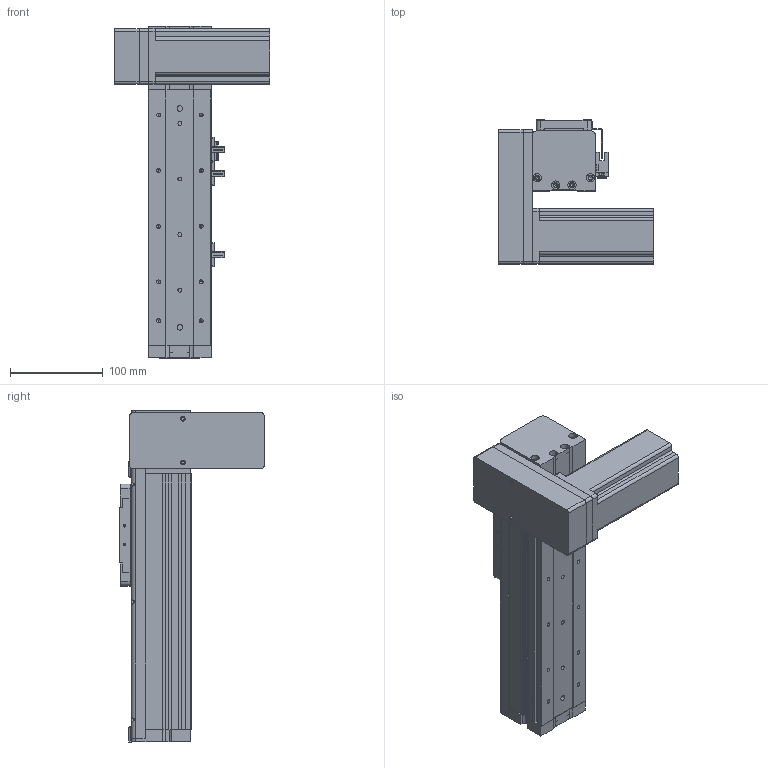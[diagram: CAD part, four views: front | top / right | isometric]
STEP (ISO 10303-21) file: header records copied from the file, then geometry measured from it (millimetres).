
FILE_DESCRIPTION (( 'STEP AP214' ), '1' );
FILE_NAME ('KSD68BS-S100-MRD-CR.STEP', '2019-08-28T01:45:47', ( '微软用户' ), ( '微软中国' ), 'SwSTEP 2.0', 'SolidWorks 2014', '' );
FILE_SCHEMA (( 'AUTOMOTIVE_DESIGN' ));
Length unit declared in the file: millimetre
Products named in the file (14): KSD68BS 100行程底板全封闭; KSD68BS 100行程盖板全封闭; KSD68BS-S100-MRD-CR; 68宽单导轨全封闭丝杆传动安装板1防护罩; KSD68BS 100行程侧板全封闭; 68宽单导轨全封闭同步带端板; 68遵裔啣揤啣1; 68单导轨全封闭同步带电机座右; 68单导轨全封闭同步带安装板; 悵誘欶奻狟殏; 68宽马达安装板连板上折同步带; 感应片68宽全封闭; U倰嫖萇EEㄜSX672; 台达ECMA－C20604AS伺服电机（400W)
Assembly tree (17 placements, depth 2):
  KSD68BS-S100-MRD-CR
    KSD68BS 100行程底板全封闭
    台达ECMA－C20604AS伺服电机（400W)
    U倰嫖萇EEㄜSX672  x3
    感应片68宽全封闭
    68宽马达安装板连板上折同步带
    悵誘欶奻狟殏
    68单导轨全封闭同步带安装板
    68单导轨全封闭同步带电机座右
    68宽单导轨全封闭同步带端板
    KSD68BS 100行程侧板全封闭  x2
    68宽单导轨全封闭丝杆传动安装板1防护罩
    68遵裔啣揤啣1  x2
    KSD68BS 100行程盖板全封闭
Bounding box: 167.2 x 155.5 x 358.1 mm (x, y, z)
Volume: 1324460 mm3; surface area: 400184.2 mm2
Topology: 18 solids, 18 shells, 1364 faces, 3833 edges, 2465 vertices
Faces by surface type: plane 623, cylinder 609, cone 132
Entity records: 41954 total; most frequent: CARTESIAN_POINT 7019, DIRECTION 6365, ORIENTED_EDGE 6102, EDGE_CURVE 3051, AXIS2_PLACEMENT_3D 2257, VERTEX_POINT 2003, VECTOR 1851, LINE 1851
